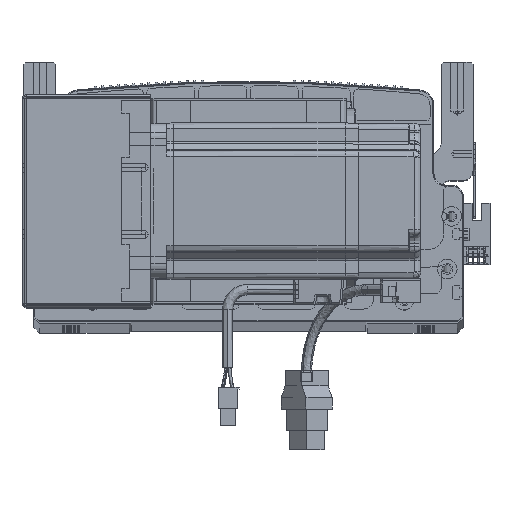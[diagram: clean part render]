
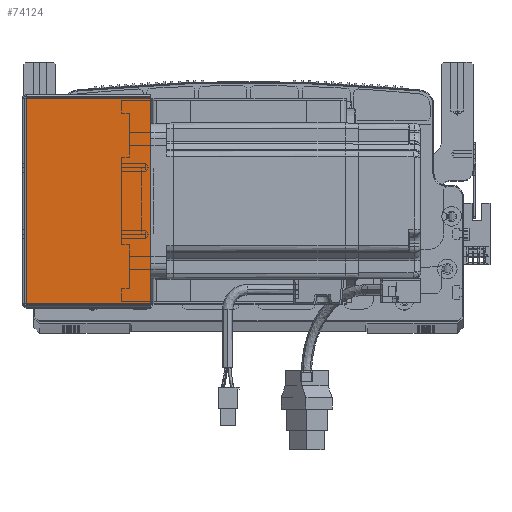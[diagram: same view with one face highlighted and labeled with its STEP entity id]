
A CAD part, top view. The second image highlights one B-rep face of the part: STEP entity #74124.
In plain terms, the highlighted planar face has unit normal (0, 0, 1) as drawn and (0, 0, -1) by its records, which use the part's own axes.
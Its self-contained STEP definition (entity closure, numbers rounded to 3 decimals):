
#4951 = PLANE ( 'NONE',  #11313 ) ;
#10303 = VECTOR ( 'NONE', #23406, 1000. ) ;
#11313 = AXIS2_PLACEMENT_3D ( 'NONE', #20475, #66118, #58538 ) ;
#12213 = CARTESIAN_POINT ( 'NONE',  ( 0., 105.293, -205.5 ) ) ;
#14019 = LINE ( 'NONE', #92113, #98052 ) ;
#19751 = LINE ( 'NONE', #38929, #10303 ) ;
#20475 = CARTESIAN_POINT ( 'NONE',  ( 0., 0., -205.5 ) ) ;
#21363 = EDGE_CURVE ( 'NONE', #85725, #72701, #14019, .T. ) ;
#23406 = DIRECTION ( 'NONE',  ( 1., 0., 0. ) ) ;
#26611 = EDGE_CURVE ( 'NONE', #63468, #80992, #58156, .T. ) ;
#34688 = ORIENTED_EDGE ( 'NONE', *, *, #49622, .F. ) ;
#38929 = CARTESIAN_POINT ( 'NONE',  ( 0., 0.707, -205.5 ) ) ;
#42091 = CARTESIAN_POINT ( 'NONE',  ( 64.5, 105.293, -205.5 ) ) ;
#43336 = CARTESIAN_POINT ( 'NONE',  ( 64.5, 0.707, -205.5 ) ) ;
#46217 = DIRECTION ( 'NONE',  ( 0., -1., 0. ) ) ;
#48897 = EDGE_CURVE ( 'NONE', #63468, #85725, #54094, .T. ) ;
#49622 = EDGE_CURVE ( 'NONE', #80992, #72701, #19751, .T. ) ;
#51730 = VECTOR ( 'NONE', #72066, 1000. ) ;
#53382 = VECTOR ( 'NONE', #81633, 1000. ) ;
#54094 = LINE ( 'NONE', #12213, #51730 ) ;
#54158 = CARTESIAN_POINT ( 'NONE',  ( 0.737, 105.293, -205.5 ) ) ;
#58156 = LINE ( 'NONE', #58531, #53382 ) ;
#58531 = CARTESIAN_POINT ( 'NONE',  ( 0.737, 0., -205.5 ) ) ;
#58538 = DIRECTION ( 'NONE',  ( 1., 0., 0. ) ) ;
#61920 = EDGE_LOOP ( 'NONE', ( #69718, #67155, #68712, #34688 ) ) ;
#63468 = VERTEX_POINT ( 'NONE', #54158 ) ;
#66118 = DIRECTION ( 'NONE',  ( 0., 0., 1. ) ) ;
#67155 = ORIENTED_EDGE ( 'NONE', *, *, #48897, .T. ) ;
#67449 = CARTESIAN_POINT ( 'NONE',  ( 0.737, 0.707, -205.5 ) ) ;
#68712 = ORIENTED_EDGE ( 'NONE', *, *, #21363, .T. ) ;
#69718 = ORIENTED_EDGE ( 'NONE', *, *, #26611, .F. ) ;
#72066 = DIRECTION ( 'NONE',  ( 1., 0., 0. ) ) ;
#72701 = VERTEX_POINT ( 'NONE', #43336 ) ;
#74124 = ADVANCED_FACE ( 'NONE', ( #97332 ), #4951, .F. ) ;
#80992 = VERTEX_POINT ( 'NONE', #67449 ) ;
#81633 = DIRECTION ( 'NONE',  ( 0., -1., 0. ) ) ;
#85725 = VERTEX_POINT ( 'NONE', #42091 ) ;
#92113 = CARTESIAN_POINT ( 'NONE',  ( 64.5, 0., -205.5 ) ) ;
#97332 = FACE_OUTER_BOUND ( 'NONE', #61920, .T. ) ;
#98052 = VECTOR ( 'NONE', #46217, 1000. ) ;
